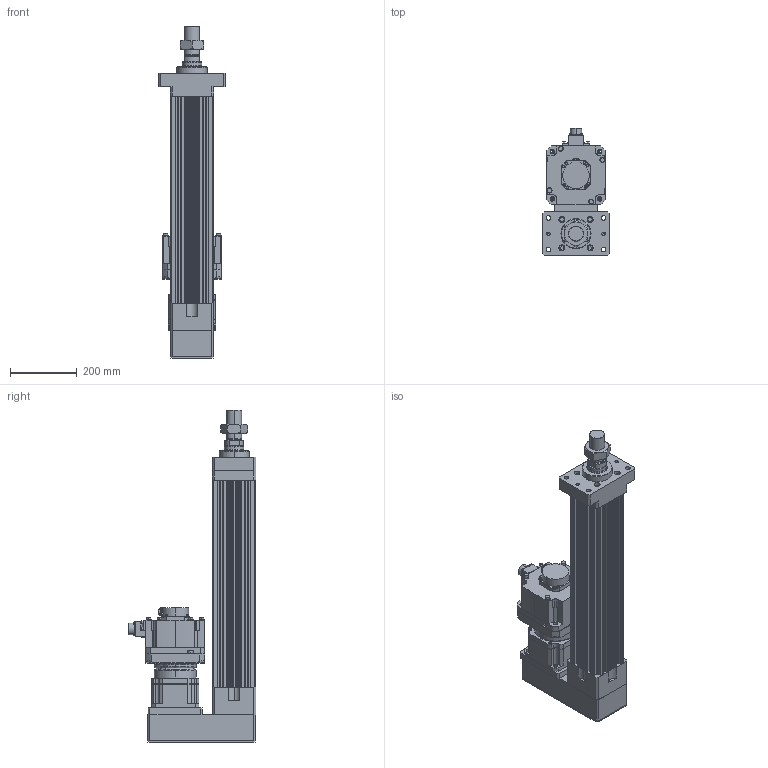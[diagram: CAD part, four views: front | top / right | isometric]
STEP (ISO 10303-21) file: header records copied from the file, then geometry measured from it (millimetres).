
FILE_DESCRIPTION (( 'STEP AP203' ), '1' );
FILE_NAME ('HES130FS(HS)-P400-W020G00-M-FMA.STEP', '2023-01-30T06:23:58', ( 'tms' ), ( '' ), 'SwSTEP 2.0', 'SolidWorks 2013', '' );
FILE_SCHEMA (( 'CONFIG_CONTROL_DESIGN' ));
Length unit declared in the file: millimetre
Products named in the file (9): P1301500001; HES130 ROD M ST400; HG-SR202; HES130-P400-G142-FMA; AB1421; P0403500801; M45X1.5P; AB142-003[HG-SR352]; HES130FS(HS)-P400-W020G00-M-FMA
Assembly tree (8 placements, depth 3):
  HES130FS(HS)-P400-W020G00-M-FMA
    HES130-P400-G142-FMA
    HES130 ROD M ST400
    M45X1.5P
    AB142-003[HG-SR352]
      AB1421
      P1301500001
      P0403500801
    HG-SR202
Bounding box: 200 x 381.85 x 994 mm (x, y, z)
Volume: 13691856.4 mm3; surface area: 1595197.8 mm2
Topology: 4 solids, 18 shells, 1401 faces, 3660 edges, 2370 vertices
Faces by surface type: cylinder 643, plane 530, cone 146, bspline 76, torus 6
Entity records: 52014 total; most frequent: CARTESIAN_POINT 16222, DIRECTION 7460, ORIENTED_EDGE 7222, EDGE_CURVE 3633, AXIS2_PLACEMENT_3D 2825, VERTEX_POINT 2370, VECTOR 1810, LINE 1810
